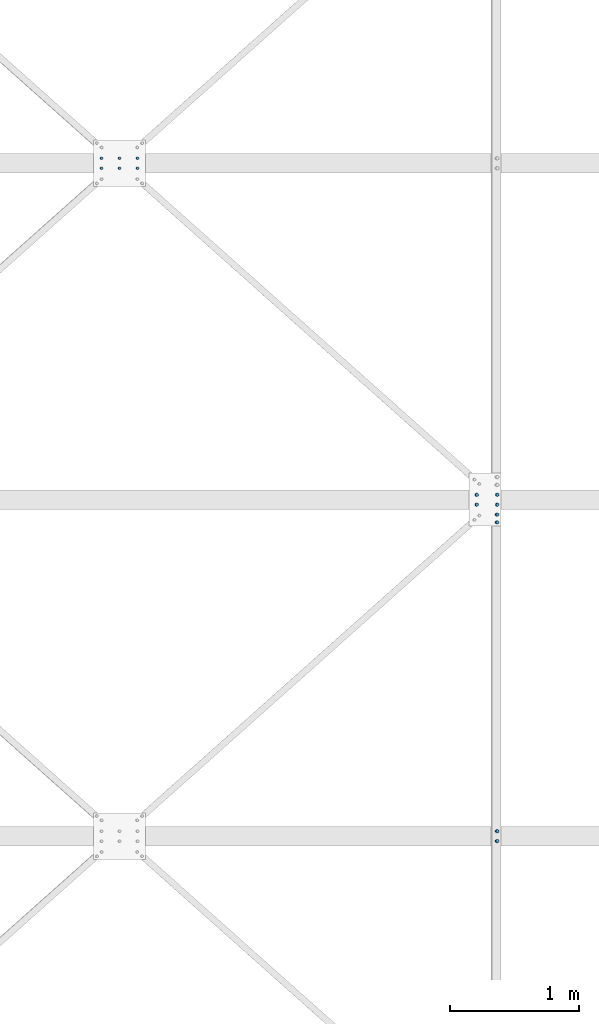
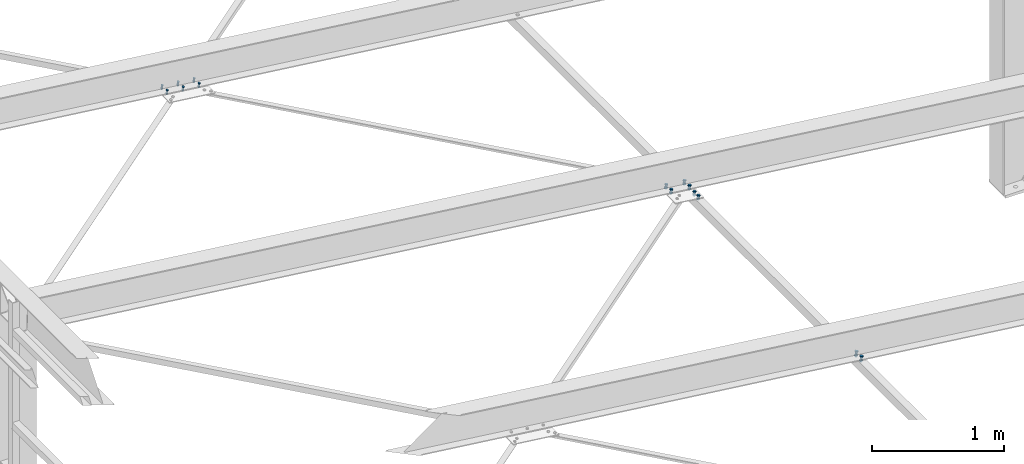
# One storey, part 200 of 3134: 4 mechanical fasteners, 4 elements without a shape of their own.
"""IFC2X3 building model written with IfcOpenShell, lengths in millimetres."""

from ifc_helpers import new_model, si_unit, frame, origin_with_axes, place, context, subcontext, project, spatial, faceted_brep, source, transform, mapped, material, type_object, element, aggregate, save


model = new_model("IFC2X3")

# Units and contexts
model_context = context("Model", 3, precision=1e-05, world=origin_with_axes())
body_context = subcontext(model_context, "Body", "Model", "MODEL_VIEW")
ifc_project = project(units=[si_unit("LENGTHUNIT", "METRE", prefix="MILLI"), si_unit("AREAUNIT", "SQUARE_METRE"), si_unit("VOLUMEUNIT", "CUBIC_METRE"), si_unit("MASSUNIT", "GRAM", prefix="KILO"), si_unit("TIMEUNIT", "SECOND"), si_unit("PLANEANGLEUNIT", "RADIAN"), si_unit("SOLIDANGLEUNIT", "STERADIAN"), si_unit("THERMODYNAMICTEMPERATUREUNIT", "DEGREE_CELSIUS"), si_unit("LUMINOUSINTENSITYUNIT", "LUMEN")], contexts=[model_context])

# Site, building, storey
site_placement = place(None, origin_with_axes())
site = spatial("IfcSite", under=ifc_project, at=site_placement, CompositionType="ELEMENT")
building_placement = place(site_placement, origin_with_axes())
building = spatial("IfcBuilding", under=site, at=building_placement, Name="Undefined", CompositionType="ELEMENT")
storey_placement = place(building_placement, origin_with_axes())
storey = spatial("IfcBuildingStorey", under=building, at=storey_placement, Name="Undefined", CompositionType="ELEMENT", Elevation=0.0)

# Assembly, mechanical fastener
assembly_1_placement = place(storey_placement, origin_with_axes())
assembly_1 = element("IfcElementAssembly", 1, at=assembly_1_placement, inside=storey, Name="300", AssemblyPlace="NOTDEFINED", PredefinedType="RIGID_FRAME")
ifc_material = material(Name="8.8")
mechanical_fastener_type = type_object("IfcMechanicalFastenerType", Name="Bolt assembly")
shared_shape_1 = source(origin_with_axes(), body_context, "Body", "Brep", [
    faceted_brep([(13.856406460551, -19.199990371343, 0.0), (6.92820323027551, -19.199990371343, 12.0), (-6.92820323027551, -19.199990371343, 12.0), (-13.856406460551, -19.199990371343, 1.69692038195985e-15), (-6.92820323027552, -19.199990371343, -12.0), (6.9282032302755, -19.199990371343, -12.0), (6.9282032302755, -9.19999037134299, -12.0), (-6.92820323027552, -9.19999037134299, -12.0), (-13.856406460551, -9.19999037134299, 1.69692038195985e-15), (-6.92820323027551, -9.19999037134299, 12.0), (6.92820323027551, -9.19999037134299, 12.0), (13.856406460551, -9.19999037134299, 0.0), (8.0, -9.19999037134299, 0.0), (6.92820323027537, -9.19999037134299, 4.00000000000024), (3.99999999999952, -9.19999037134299, 6.92820323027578), (-8.29068785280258e-13, -9.19999037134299, 8.0), (-4.00000000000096, -9.19999037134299, 6.92820323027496), (-6.9282032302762, -9.19999037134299, 3.99999999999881), (-8.0, -9.19999037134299, -1.65813757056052e-12), (-6.92820323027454, -9.19999037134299, -4.00000000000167), (-3.99999999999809, -9.19999037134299, -6.92820323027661), (2.47832457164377e-12, -9.19999037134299, -8.0), (4.00000000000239, -9.19999037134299, -6.92820323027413), (6.92820323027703, -9.19999037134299, -3.99999999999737), (6.92820323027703, 25.800009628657, -3.99999999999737), (4.00000000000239, 25.800009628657, -6.92820323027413), (2.47832457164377e-12, 25.800009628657, -8.0), (-3.99999999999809, 25.800009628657, -6.92820323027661), (-6.92820323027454, 25.800009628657, -4.00000000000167), (-8.0, 25.800009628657, -1.65813757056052e-12), (-6.9282032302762, 25.800009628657, 3.99999999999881), (-4.00000000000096, 25.800009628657, 6.92820323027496), (-8.29068785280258e-13, 25.800009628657, 8.0), (3.99999999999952, 25.800009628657, 6.92820323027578), (6.92820323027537, 25.800009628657, 4.00000000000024), (8.0, 25.800009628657, 0.0), (13.856406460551, 8.00000637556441, 0.0), (6.92820323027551, 8.00000637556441, 12.0), (-6.92820323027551, 8.00000637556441, 12.0), (-13.856406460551, 8.00000637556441, 1.69692038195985e-15), (-6.92820323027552, 8.00000637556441, -12.0), (6.9282032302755, 8.00000637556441, -12.0), (6.9282032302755, 21.0000063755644, -12.0), (-6.92820323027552, 21.0000063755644, -12.0), (-13.856406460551, 21.0000063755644, 1.69692038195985e-15), (-6.92820323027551, 21.0000063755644, 12.0), (6.92820323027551, 21.0000063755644, 12.0), (13.856406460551, 21.0000063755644, 0.0)], [[[0, 1, 2, 3, 4, 5]], [[6, 7, 8, 9, 10, 11]], [[0, 11, 10, 1]], [[1, 10, 9, 2]], [[2, 9, 8, 3]], [[3, 8, 7, 4]], [[4, 7, 6, 5]], [[5, 6, 11, 0]], [[12, 13, 14, 15, 16, 17, 18, 19, 20, 21, 22, 23]], [[24, 25, 26, 27, 28, 29, 30, 31, 32, 33, 34, 35]], [[12, 35, 34, 13]], [[13, 34, 33, 14]], [[14, 33, 32, 15]], [[15, 32, 31, 16]], [[16, 31, 30, 17]], [[17, 30, 29, 18]], [[18, 29, 28, 19]], [[19, 28, 27, 20]], [[20, 27, 26, 21]], [[21, 26, 25, 22]], [[22, 25, 24, 23]], [[23, 24, 35, 12]], [[36, 37, 38, 39, 40, 41]], [[42, 43, 44, 45, 46, 47]], [[36, 47, 46, 37]], [[37, 46, 45, 38]], [[38, 45, 44, 39]], [[39, 44, 43, 40]], [[40, 43, 42, 41]], [[41, 42, 47, 36]]]),
    faceted_brep([(9.0, -0.1, 0.0), (7.79422863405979, -0.1, 4.50000000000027), (4.49999999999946, -0.1, 7.79422863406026), (-9.3270238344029e-13, -0.1, 9.0), (-4.50000000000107, -0.1, 7.79422863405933), (-7.79422863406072, -0.1, 4.49999999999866), (-9.0, -0.1, -1.86540476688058e-12), (-7.79422863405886, -0.1, -4.50000000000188), (-4.49999999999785, -0.1, -7.79422863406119), (2.78811514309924e-12, -0.1, -9.0), (4.50000000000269, -0.1, -7.7942286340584), (7.79422863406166, -0.1, -4.49999999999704), (7.79422863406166, 8.00000000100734, -4.49999999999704), (4.50000000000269, 8.00000000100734, -7.7942286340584), (2.78811514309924e-12, 8.00000000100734, -9.0), (-4.49999999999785, 8.00000000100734, -7.79422863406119), (-7.79422863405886, 8.00000000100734, -4.50000000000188), (-9.0, 8.00000000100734, -1.86540476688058e-12), (-7.79422863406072, 8.00000000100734, 4.49999999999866), (-4.50000000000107, 8.00000000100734, 7.79422863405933), (-9.3270238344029e-13, 8.00000000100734, 9.0), (4.49999999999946, 8.00000000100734, 7.79422863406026), (7.79422863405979, 8.00000000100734, 4.50000000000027), (9.0, 8.00000000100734, 0.0), (9.0, -9.09999037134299, 0.0), (7.79422863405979, -9.09999037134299, 4.50000000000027), (4.49999999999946, -9.09999037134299, 7.79422863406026), (-9.3270238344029e-13, -9.09999037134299, 9.0), (-4.50000000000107, -9.09999037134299, 7.79422863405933), (-7.79422863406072, -9.09999037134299, 4.49999999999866), (-9.0, -9.09999037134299, -1.86540476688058e-12), (-7.79422863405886, -9.09999037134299, -4.50000000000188), (-4.49999999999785, -9.09999037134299, -7.79422863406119), (2.78811514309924e-12, -9.09999037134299, -9.0), (4.50000000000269, -9.09999037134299, -7.7942286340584), (7.79422863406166, -9.09999037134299, -4.49999999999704), (7.79422863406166, 0.100000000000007, -4.49999999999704), (4.50000000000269, 0.100000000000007, -7.7942286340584), (2.78811514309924e-12, 0.100000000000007, -9.0), (-4.49999999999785, 0.100000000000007, -7.79422863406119), (-7.79422863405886, 0.100000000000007, -4.50000000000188), (-9.0, 0.100000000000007, -1.86540476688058e-12), (-7.79422863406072, 0.100000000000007, 4.49999999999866), (-4.50000000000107, 0.100000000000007, 7.79422863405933), (-9.3270238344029e-13, 0.100000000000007, 9.0), (4.49999999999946, 0.100000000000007, 7.79422863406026), (7.79422863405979, 0.100000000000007, 4.50000000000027), (9.0, 0.100000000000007, 0.0)], [[[0, 1, 2, 3, 4, 5, 6, 7, 8, 9, 10, 11]], [[12, 13, 14, 15, 16, 17, 18, 19, 20, 21, 22, 23]], [[0, 23, 22, 1]], [[1, 22, 21, 2]], [[2, 21, 20, 3]], [[3, 20, 19, 4]], [[4, 19, 18, 5]], [[5, 18, 17, 6]], [[6, 17, 16, 7]], [[7, 16, 15, 8]], [[8, 15, 14, 9]], [[9, 14, 13, 10]], [[10, 13, 12, 11]], [[11, 12, 23, 0]], [[24, 25, 26, 27, 28, 29, 30, 31, 32, 33, 34, 35]], [[36, 37, 38, 39, 40, 41, 42, 43, 44, 45, 46, 47]], [[24, 47, 46, 25]], [[25, 46, 45, 26]], [[26, 45, 44, 27]], [[27, 44, 43, 28]], [[28, 43, 42, 29]], [[29, 42, 41, 30]], [[30, 41, 40, 31]], [[31, 40, 39, 32]], [[32, 39, 38, 33]], [[33, 38, 37, 34]], [[34, 37, 36, 35]], [[35, 36, 47, 24]]]),
])
mechanical_fastener_1_placement = place(assembly_1_placement, frame((26608.5751064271, 35012.0, 4816.43281405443), z_axis=(-0.992623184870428, 0.0, 0.121240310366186), x_axis=(0.0, 1.0, 0.0)))
mechanical_fastener_1 = element("IfcMechanicalFastener", 2, at=mechanical_fastener_1_placement, type_object=mechanical_fastener_type, material=ifc_material, Name="Bolt assembly", NominalDiameter=16.0, NominalLength=35.0, context=body_context, shape_type="MappedRepresentation", body=[
    mapped(shared_shape_1, transform((0.0, -5.32963895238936e-10, -79.9999999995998))),
    mapped(shared_shape_1, transform((76.0, -5.32963895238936e-10, -79.9999999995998))),
    mapped(shared_shape_1, transform((0.0, 5.3114490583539e-10, 79.9999999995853))),
    mapped(shared_shape_1, transform((76.0, 5.3114490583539e-10, 79.9999999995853))),
])
aggregate(assembly_1, [mechanical_fastener_1])

assembly_2_placement = place(storey_placement, origin_with_axes())
assembly_2 = element("IfcElementAssembly", 3, at=assembly_2_placement, inside=storey, AssemblyPlace="NOTDEFINED", PredefinedType="RIGID_FRAME")
shared_shape_2 = source(origin_with_axes(), body_context, "Body", "Brep", [
    faceted_brep([(13.856406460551, -19.199990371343, 0.0), (6.92820323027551, -19.199990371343, 12.0), (-6.92820323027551, -19.199990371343, 12.0), (-13.856406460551, -19.199990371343, 1.69692038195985e-15), (-6.92820323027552, -19.199990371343, -12.0), (6.9282032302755, -19.199990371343, -12.0), (6.9282032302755, -9.19999037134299, -12.0), (-6.92820323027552, -9.19999037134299, -12.0), (-13.856406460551, -9.19999037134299, 1.69692038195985e-15), (-6.92820323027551, -9.19999037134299, 12.0), (6.92820323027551, -9.19999037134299, 12.0), (13.856406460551, -9.19999037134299, 0.0), (8.0, -9.19999037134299, 0.0), (6.92820323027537, -9.19999037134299, 4.00000000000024), (3.99999999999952, -9.19999037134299, 6.92820323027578), (-8.29068785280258e-13, -9.19999037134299, 8.0), (-4.00000000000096, -9.19999037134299, 6.92820323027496), (-6.9282032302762, -9.19999037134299, 3.99999999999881), (-8.0, -9.19999037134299, -1.65813757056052e-12), (-6.92820323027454, -9.19999037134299, -4.00000000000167), (-3.99999999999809, -9.19999037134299, -6.92820323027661), (2.47832457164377e-12, -9.19999037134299, -8.0), (4.00000000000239, -9.19999037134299, -6.92820323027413), (6.92820323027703, -9.19999037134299, -3.99999999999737), (6.92820323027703, 35.8000002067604, -3.99999999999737), (4.00000000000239, 35.8000002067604, -6.92820323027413), (2.47832457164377e-12, 35.8000002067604, -8.0), (-3.99999999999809, 35.8000002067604, -6.92820323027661), (-6.92820323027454, 35.8000002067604, -4.00000000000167), (-8.0, 35.8000002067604, -1.65813757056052e-12), (-6.9282032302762, 35.8000002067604, 3.99999999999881), (-4.00000000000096, 35.8000002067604, 6.92820323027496), (-8.29068785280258e-13, 35.8000002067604, 8.0), (3.99999999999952, 35.8000002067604, 6.92820323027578), (6.92820323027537, 35.8000002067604, 4.00000000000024), (8.0, 35.8000002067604, 0.0), (13.856406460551, 14.9999995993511, 0.0), (6.92820323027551, 14.9999995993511, 12.0), (-6.92820323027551, 14.9999995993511, 12.0), (-13.856406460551, 14.9999995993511, 1.69692038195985e-15), (-6.92820323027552, 14.9999995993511, -12.0), (6.9282032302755, 14.9999995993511, -12.0), (6.9282032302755, 27.9999995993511, -12.0), (-6.92820323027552, 27.9999995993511, -12.0), (-13.856406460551, 27.9999995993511, 1.69692038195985e-15), (-6.92820323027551, 27.9999995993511, 12.0), (6.92820323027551, 27.9999995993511, 12.0), (13.856406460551, 27.9999995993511, 0.0)], [[[0, 1, 2, 3, 4, 5]], [[6, 7, 8, 9, 10, 11]], [[0, 11, 10, 1]], [[1, 10, 9, 2]], [[2, 9, 8, 3]], [[3, 8, 7, 4]], [[4, 7, 6, 5]], [[5, 6, 11, 0]], [[12, 13, 14, 15, 16, 17, 18, 19, 20, 21, 22, 23]], [[24, 25, 26, 27, 28, 29, 30, 31, 32, 33, 34, 35]], [[12, 35, 34, 13]], [[13, 34, 33, 14]], [[14, 33, 32, 15]], [[15, 32, 31, 16]], [[16, 31, 30, 17]], [[17, 30, 29, 18]], [[18, 29, 28, 19]], [[19, 28, 27, 20]], [[20, 27, 26, 21]], [[21, 26, 25, 22]], [[22, 25, 24, 23]], [[23, 24, 35, 12]], [[36, 37, 38, 39, 40, 41]], [[42, 43, 44, 45, 46, 47]], [[36, 47, 46, 37]], [[37, 46, 45, 38]], [[38, 45, 44, 39]], [[39, 44, 43, 40]], [[40, 43, 42, 41]], [[41, 42, 47, 36]]]),
    faceted_brep([(9.0, -9.09999037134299, 0.0), (7.79422863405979, -9.09999037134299, 4.50000000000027), (4.49999999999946, -9.09999037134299, 7.79422863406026), (-9.3270238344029e-13, -9.09999037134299, 9.0), (-4.50000000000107, -9.09999037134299, 7.79422863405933), (-7.79422863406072, -9.09999037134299, 4.49999999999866), (-9.0, -9.09999037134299, -1.86540476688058e-12), (-7.79422863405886, -9.09999037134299, -4.50000000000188), (-4.49999999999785, -9.09999037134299, -7.79422863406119), (2.78811514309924e-12, -9.09999037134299, -9.0), (4.50000000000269, -9.09999037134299, -7.7942286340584), (7.79422863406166, -9.09999037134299, -4.49999999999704), (7.79422863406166, 0.100000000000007, -4.49999999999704), (4.50000000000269, 0.100000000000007, -7.7942286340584), (2.78811514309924e-12, 0.100000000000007, -9.0), (-4.49999999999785, 0.100000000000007, -7.79422863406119), (-7.79422863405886, 0.100000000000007, -4.50000000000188), (-9.0, 0.100000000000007, -1.86540476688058e-12), (-7.79422863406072, 0.100000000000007, 4.49999999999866), (-4.50000000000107, 0.100000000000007, 7.79422863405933), (-9.3270238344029e-13, 0.100000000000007, 9.0), (4.49999999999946, 0.100000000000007, 7.79422863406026), (7.79422863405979, 0.100000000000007, 4.50000000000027), (9.0, 0.100000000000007, 0.0), (9.0, 7.9, 0.0), (7.79422863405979, 7.9, 4.50000000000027), (4.49999999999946, 7.9, 7.79422863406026), (-9.3270238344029e-13, 7.9, 9.0), (-4.50000000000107, 7.9, 7.79422863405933), (-7.79422863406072, 7.9, 4.49999999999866), (-9.0, 7.9, -1.86540476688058e-12), (-7.79422863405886, 7.9, -4.50000000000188), (-4.49999999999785, 7.9, -7.79422863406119), (2.78811514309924e-12, 7.9, -9.0), (4.50000000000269, 7.9, -7.7942286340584), (7.79422863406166, 7.9, -4.49999999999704), (7.79422863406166, 14.9999995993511, -4.49999999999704), (4.50000000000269, 14.9999995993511, -7.7942286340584), (2.78811514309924e-12, 14.9999995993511, -9.0), (-4.49999999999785, 14.9999995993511, -7.79422863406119), (-7.79422863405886, 14.9999995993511, -4.50000000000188), (-9.0, 14.9999995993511, -1.86540476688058e-12), (-7.79422863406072, 14.9999995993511, 4.49999999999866), (-4.50000000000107, 14.9999995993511, 7.79422863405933), (-9.3270238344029e-13, 14.9999995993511, 9.0), (4.49999999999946, 14.9999995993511, 7.79422863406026), (7.79422863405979, 14.9999995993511, 4.50000000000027), (9.0, 14.9999995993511, 0.0)], [[[0, 1, 2, 3, 4, 5, 6, 7, 8, 9, 10, 11]], [[12, 13, 14, 15, 16, 17, 18, 19, 20, 21, 22, 23]], [[0, 23, 22, 1]], [[1, 22, 21, 2]], [[2, 21, 20, 3]], [[3, 20, 19, 4]], [[4, 19, 18, 5]], [[5, 18, 17, 6]], [[6, 17, 16, 7]], [[7, 16, 15, 8]], [[8, 15, 14, 9]], [[9, 14, 13, 10]], [[10, 13, 12, 11]], [[11, 12, 23, 0]], [[24, 25, 26, 27, 28, 29, 30, 31, 32, 33, 34, 35]], [[36, 37, 38, 39, 40, 41, 42, 43, 44, 45, 46, 47]], [[24, 47, 46, 25]], [[25, 46, 45, 26]], [[26, 45, 44, 27]], [[27, 44, 43, 28]], [[28, 43, 42, 29]], [[29, 42, 41, 30]], [[30, 41, 40, 31]], [[31, 40, 39, 32]], [[32, 39, 38, 33]], [[33, 38, 37, 34]], [[34, 37, 36, 35]], [[35, 36, 47, 24]]]),
])
mechanical_fastener_2_placement = place(assembly_2_placement, frame((26687.9849612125, 32412.0, 4806.73358922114), z_axis=(-0.992623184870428, 0.0, 0.121240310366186), x_axis=(0.0, 1.0, 0.0)))
mechanical_fastener_2 = element("IfcMechanicalFastener", 4, at=mechanical_fastener_2_placement, type_object=mechanical_fastener_type, material=ifc_material, Name="Bolt assembly", NominalDiameter=16.0, NominalLength=45.0, context=body_context, shape_type="MappedRepresentation", body=[
    mapped(shared_shape_2, transform((0.0, 0.0, 0.0))),
    mapped(shared_shape_2, transform((76.0, 0.0, 0.0))),
])
aggregate(assembly_2, [mechanical_fastener_2])

assembly_3_placement = place(storey_placement, origin_with_axes())
assembly_3 = element("IfcElementAssembly", 5, at=assembly_3_placement, inside=storey, Name="PL8", AssemblyPlace="NOTDEFINED", PredefinedType="RIGID_FRAME")
shared_shape_3 = source(origin_with_axes(), body_context, "Body", "Brep", [
    faceted_brep([(13.856406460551, -10.0, 0.0), (6.92820323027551, -10.0, 12.0), (-6.92820323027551, -10.0, 12.0), (-13.856406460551, -10.0, 1.69692038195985e-15), (-6.92820323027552, -10.0, -12.0), (6.9282032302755, -10.0, -12.0), (6.9282032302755, 0.0, -12.0), (-6.92820323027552, 0.0, -12.0), (-13.856406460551, 0.0, 1.69692038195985e-15), (-6.92820323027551, 0.0, 12.0), (6.92820323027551, 0.0, 12.0), (13.856406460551, 0.0, 0.0), (8.0, 0.0, 0.0), (6.92820323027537, 0.0, 4.00000000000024), (3.99999999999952, 0.0, 6.92820323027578), (-8.29068785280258e-13, 0.0, 8.0), (-4.00000000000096, 0.0, 6.92820323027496), (-6.9282032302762, 0.0, 3.99999999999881), (-8.0, 0.0, -1.65813757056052e-12), (-6.92820323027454, 0.0, -4.00000000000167), (-3.99999999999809, 0.0, -6.92820323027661), (2.47832457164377e-12, 0.0, -8.0), (4.00000000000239, 0.0, -6.92820323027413), (6.92820323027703, 0.0, -3.99999999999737), (6.92820323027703, 35.0000000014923, -3.99999999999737), (4.00000000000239, 35.0000000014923, -6.92820323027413), (2.47832457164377e-12, 35.0000000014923, -8.0), (-3.99999999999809, 35.0000000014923, -6.92820323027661), (-6.92820323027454, 35.0000000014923, -4.00000000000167), (-8.0, 35.0000000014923, -1.65813757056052e-12), (-6.9282032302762, 35.0000000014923, 3.99999999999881), (-4.00000000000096, 35.0000000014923, 6.92820323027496), (-8.29068785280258e-13, 35.0000000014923, 8.0), (3.99999999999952, 35.0000000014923, 6.92820323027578), (6.92820323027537, 35.0000000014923, 4.00000000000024), (8.0, 35.0000000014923, 0.0), (13.856406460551, 14.9999995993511, 0.0), (6.92820323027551, 14.9999995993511, 12.0), (-6.92820323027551, 14.9999995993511, 12.0), (-13.856406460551, 14.9999995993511, 1.69692038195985e-15), (-6.92820323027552, 14.9999995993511, -12.0), (6.9282032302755, 14.9999995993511, -12.0), (6.9282032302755, 27.9999995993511, -12.0), (-6.92820323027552, 27.9999995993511, -12.0), (-13.856406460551, 27.9999995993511, 1.69692038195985e-15), (-6.92820323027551, 27.9999995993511, 12.0), (6.92820323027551, 27.9999995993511, 12.0), (13.856406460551, 27.9999995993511, 0.0)], [[[0, 1, 2, 3, 4, 5]], [[6, 7, 8, 9, 10, 11]], [[0, 11, 10, 1]], [[1, 10, 9, 2]], [[2, 9, 8, 3]], [[3, 8, 7, 4]], [[4, 7, 6, 5]], [[5, 6, 11, 0]], [[12, 13, 14, 15, 16, 17, 18, 19, 20, 21, 22, 23]], [[24, 25, 26, 27, 28, 29, 30, 31, 32, 33, 34, 35]], [[12, 35, 34, 13]], [[13, 34, 33, 14]], [[14, 33, 32, 15]], [[15, 32, 31, 16]], [[16, 31, 30, 17]], [[17, 30, 29, 18]], [[18, 29, 28, 19]], [[19, 28, 27, 20]], [[20, 27, 26, 21]], [[21, 26, 25, 22]], [[22, 25, 24, 23]], [[23, 24, 35, 12]], [[36, 37, 38, 39, 40, 41]], [[42, 43, 44, 45, 46, 47]], [[36, 47, 46, 37]], [[37, 46, 45, 38]], [[38, 45, 44, 39]], [[39, 44, 43, 40]], [[40, 43, 42, 41]], [[41, 42, 47, 36]]]),
    faceted_brep([(9.0, 7.9, 0.0), (7.79422863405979, 7.9, 4.50000000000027), (4.49999999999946, 7.9, 7.79422863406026), (-9.3270238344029e-13, 7.9, 9.0), (-4.50000000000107, 7.9, 7.79422863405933), (-7.79422863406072, 7.9, 4.49999999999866), (-9.0, 7.9, -1.86540476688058e-12), (-7.79422863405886, 7.9, -4.50000000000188), (-4.49999999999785, 7.9, -7.79422863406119), (2.78811514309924e-12, 7.9, -9.0), (4.50000000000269, 7.9, -7.7942286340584), (7.79422863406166, 7.9, -4.49999999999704), (7.79422863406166, 14.9999995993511, -4.49999999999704), (4.50000000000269, 14.9999995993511, -7.7942286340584), (2.78811514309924e-12, 14.9999995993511, -9.0), (-4.49999999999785, 14.9999995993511, -7.79422863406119), (-7.79422863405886, 14.9999995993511, -4.50000000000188), (-9.0, 14.9999995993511, -1.86540476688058e-12), (-7.79422863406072, 14.9999995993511, 4.49999999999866), (-4.50000000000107, 14.9999995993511, 7.79422863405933), (-9.3270238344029e-13, 14.9999995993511, 9.0), (4.49999999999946, 14.9999995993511, 7.79422863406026), (7.79422863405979, 14.9999995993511, 4.50000000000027), (9.0, 14.9999995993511, 0.0), (9.0, 0.100000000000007, 0.0), (7.79422863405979, 0.100000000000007, 4.50000000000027), (4.49999999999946, 0.100000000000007, 7.79422863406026), (-9.3270238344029e-13, 0.100000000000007, 9.0), (-4.50000000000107, 0.100000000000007, 7.79422863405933), (-7.79422863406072, 0.100000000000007, 4.49999999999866), (-9.0, 0.100000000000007, -1.86540476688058e-12), (-7.79422863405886, 0.100000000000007, -4.50000000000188), (-4.49999999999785, 0.100000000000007, -7.79422863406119), (2.78811514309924e-12, 0.100000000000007, -9.0), (4.50000000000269, 0.100000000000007, -7.7942286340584), (7.79422863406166, 0.100000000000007, -4.49999999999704), (7.79422863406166, 8.1, -4.49999999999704), (4.50000000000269, 8.1, -7.7942286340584), (2.78811514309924e-12, 8.1, -9.0), (-4.49999999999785, 8.1, -7.79422863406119), (-7.79422863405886, 8.1, -4.50000000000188), (-9.0, 8.1, -1.86540476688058e-12), (-7.79422863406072, 8.1, 4.49999999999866), (-4.50000000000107, 8.1, 7.79422863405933), (-9.3270238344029e-13, 8.1, 9.0), (4.49999999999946, 8.1, 7.79422863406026), (7.79422863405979, 8.1, 4.50000000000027), (9.0, 8.1, 0.0)], [[[0, 1, 2, 3, 4, 5, 6, 7, 8, 9, 10, 11]], [[12, 13, 14, 15, 16, 17, 18, 19, 20, 21, 22, 23]], [[0, 23, 22, 1]], [[1, 22, 21, 2]], [[2, 21, 20, 3]], [[3, 20, 19, 4]], [[4, 19, 18, 5]], [[5, 18, 17, 6]], [[6, 17, 16, 7]], [[7, 16, 15, 8]], [[8, 15, 14, 9]], [[9, 14, 13, 10]], [[10, 13, 12, 11]], [[11, 12, 23, 0]], [[24, 25, 26, 27, 28, 29, 30, 31, 32, 33, 34, 35]], [[36, 37, 38, 39, 40, 41, 42, 43, 44, 45, 46, 47]], [[24, 47, 46, 25]], [[25, 46, 45, 26]], [[26, 45, 44, 27]], [[27, 44, 43, 28]], [[28, 43, 42, 29]], [[29, 42, 41, 30]], [[30, 41, 40, 31]], [[31, 40, 39, 32]], [[32, 39, 38, 33]], [[33, 38, 37, 34]], [[34, 37, 36, 35]], [[35, 36, 47, 24]]]),
])
mechanical_fastener_3_placement = place(assembly_3_placement, frame((26687.9849612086, 34935.0, 4806.73358922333), z_axis=(0.992623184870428, 0.0, -0.121240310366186), x_axis=(0.0, -1.0, 0.0)))
mechanical_fastener_3 = element("IfcMechanicalFastener", 6, at=mechanical_fastener_3_placement, type_object=mechanical_fastener_type, material=ifc_material, Name="Bolt assembly", NominalDiameter=16.0, NominalLength=35.0, context=body_context, shape_type="MappedRepresentation", body=[
    mapped(shared_shape_3, transform((0.0, 0.0, 0.0))),
    mapped(shared_shape_3, transform((59.9999999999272, 0.0, 5.40239852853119e-10))),
])
aggregate(assembly_3, [mechanical_fastener_3])

assembly_4_placement = place(storey_placement, origin_with_axes())
assembly_4 = element("IfcElementAssembly", 7, at=assembly_4_placement, inside=storey, Name="300", AssemblyPlace="NOTDEFINED", PredefinedType="RIGID_FRAME")
shared_shape_4 = source(origin_with_axes(), body_context, "Body", "Brep", [
    faceted_brep([(10.9696551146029, -17.1999998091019, 0.0), (5.48482755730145, -17.1999998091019, 9.5), (-5.48482755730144, -17.1999998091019, 9.5), (-10.9696551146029, -17.1999998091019, 1.34339530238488e-15), (-5.48482755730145, -17.1999998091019, -9.5), (5.48482755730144, -17.1999998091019, -9.50000000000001), (5.48482755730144, -9.19999978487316, -9.50000000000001), (-5.48482755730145, -9.19999978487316, -9.5), (-10.9696551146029, -9.19999978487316, 1.34339530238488e-15), (-5.48482755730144, -9.19999978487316, 9.5), (5.48482755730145, -9.19999978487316, 9.5), (10.9696551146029, -9.19999978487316, 0.0), (6.0, -9.19999978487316, 0.0), (5.19615242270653, -9.19999978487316, 3.00000000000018), (2.99999999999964, -9.19999978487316, 5.19615242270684), (-6.21801588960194e-13, -9.19999978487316, 6.0), (-3.00000000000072, -9.19999978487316, 5.19615242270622), (-5.19615242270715, -9.19999978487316, 2.9999999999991), (-6.0, -9.19999978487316, -1.24360317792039e-12), (-5.19615242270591, -9.19999978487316, -3.00000000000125), (-2.99999999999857, -9.19999978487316, -5.19615242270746), (1.85874342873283e-12, -9.19999978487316, -6.0), (3.00000000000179, -9.19999978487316, -5.1961524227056), (5.19615242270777, -9.19999978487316, -2.99999999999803), (5.19615242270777, 25.8000002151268, -2.99999999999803), (3.00000000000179, 25.8000002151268, -5.1961524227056), (1.85874342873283e-12, 25.8000002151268, -6.0), (-2.99999999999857, 25.8000002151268, -5.19615242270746), (-5.19615242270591, 25.8000002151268, -3.00000000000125), (-6.0, 25.8000002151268, -1.24360317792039e-12), (-5.19615242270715, 25.8000002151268, 2.9999999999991), (-3.00000000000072, 25.8000002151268, 5.19615242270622), (-6.21801588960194e-13, 25.8000002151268, 6.0), (2.99999999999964, 25.8000002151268, 5.19615242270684), (5.19615242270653, 25.8000002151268, 3.00000000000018), (6.0, 25.8000002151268, 0.0), (10.9696551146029, 8.0, 0.0), (5.48482755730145, 8.0, 9.5), (-5.48482755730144, 8.0, 9.5), (-10.9696551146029, 8.0, 1.34339530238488e-15), (-5.48482755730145, 8.0, -9.5), (5.48482755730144, 8.0, -9.50000000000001), (5.48482755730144, 18.0, -9.50000000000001), (-5.48482755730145, 18.0, -9.5), (-10.9696551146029, 18.0, 1.34339530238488e-15), (-5.48482755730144, 18.0, 9.5), (5.48482755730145, 18.0, 9.5), (10.9696551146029, 18.0, 0.0)], [[[0, 1, 2, 3, 4, 5]], [[6, 7, 8, 9, 10, 11]], [[0, 11, 10, 1]], [[1, 10, 9, 2]], [[2, 9, 8, 3]], [[3, 8, 7, 4]], [[4, 7, 6, 5]], [[5, 6, 11, 0]], [[12, 13, 14, 15, 16, 17, 18, 19, 20, 21, 22, 23]], [[24, 25, 26, 27, 28, 29, 30, 31, 32, 33, 34, 35]], [[12, 35, 34, 13]], [[13, 34, 33, 14]], [[14, 33, 32, 15]], [[15, 32, 31, 16]], [[16, 31, 30, 17]], [[17, 30, 29, 18]], [[18, 29, 28, 19]], [[19, 28, 27, 20]], [[20, 27, 26, 21]], [[21, 26, 25, 22]], [[22, 25, 24, 23]], [[23, 24, 35, 12]], [[36, 37, 38, 39, 40, 41]], [[42, 43, 44, 45, 46, 47]], [[36, 47, 46, 37]], [[37, 46, 45, 38]], [[38, 45, 44, 39]], [[39, 44, 43, 40]], [[40, 43, 42, 41]], [[41, 42, 47, 36]]]),
    faceted_brep([(7.0, -0.1, 0.0), (6.06217782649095, -0.1, 3.50000000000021), (3.49999999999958, -0.1, 6.06217782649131), (-7.25435187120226e-13, -0.1, 7.0), (-3.50000000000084, -0.1, 6.06217782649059), (-6.06217782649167, -0.1, 3.49999999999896), (-7.0, -0.1, -1.45087037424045e-12), (-6.06217782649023, -0.1, -3.50000000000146), (-3.49999999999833, -0.1, -6.06217782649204), (2.1685340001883e-12, -0.1, -7.0), (3.50000000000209, -0.1, -6.06217782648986), (6.0621778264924, -0.1, -3.4999999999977), (6.0621778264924, 8.0000000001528, -3.4999999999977), (3.50000000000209, 8.0000000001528, -6.06217782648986), (2.1685340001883e-12, 8.0000000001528, -7.0), (-3.49999999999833, 8.0000000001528, -6.06217782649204), (-6.06217782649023, 8.0000000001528, -3.50000000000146), (-7.0, 8.0000000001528, -1.45087037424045e-12), (-6.06217782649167, 8.0000000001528, 3.49999999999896), (-3.50000000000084, 8.0000000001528, 6.06217782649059), (-7.25435187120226e-13, 8.0000000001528, 7.0), (3.49999999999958, 8.0000000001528, 6.06217782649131), (6.06217782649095, 8.0000000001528, 3.50000000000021), (7.0, 8.0000000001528, 0.0), (7.0, -9.09999980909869, 0.0), (6.06217782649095, -9.09999980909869, 3.50000000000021), (3.49999999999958, -9.09999980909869, 6.06217782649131), (-7.25435187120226e-13, -9.09999980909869, 7.0), (-3.50000000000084, -9.09999980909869, 6.06217782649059), (-6.06217782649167, -9.09999980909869, 3.49999999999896), (-7.0, -9.09999980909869, -1.45087037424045e-12), (-6.06217782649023, -9.09999980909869, -3.50000000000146), (-3.49999999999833, -9.09999980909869, -6.06217782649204), (2.1685340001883e-12, -9.09999980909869, -7.0), (3.50000000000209, -9.09999980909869, -6.06217782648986), (6.0621778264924, -9.09999980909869, -3.4999999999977), (6.0621778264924, 0.0999999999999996, -3.4999999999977), (3.50000000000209, 0.0999999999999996, -6.06217782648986), (2.1685340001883e-12, 0.0999999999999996, -7.0), (-3.49999999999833, 0.0999999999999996, -6.06217782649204), (-6.06217782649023, 0.0999999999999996, -3.50000000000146), (-7.0, 0.0999999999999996, -1.45087037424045e-12), (-6.06217782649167, 0.0999999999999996, 3.49999999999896), (-3.50000000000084, 0.0999999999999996, 6.06217782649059), (-7.25435187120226e-13, 0.0999999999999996, 7.0), (3.49999999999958, 0.0999999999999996, 6.06217782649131), (6.06217782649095, 0.0999999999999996, 3.50000000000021), (7.0, 0.0999999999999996, 0.0)], [[[0, 1, 2, 3, 4, 5, 6, 7, 8, 9, 10, 11]], [[12, 13, 14, 15, 16, 17, 18, 19, 20, 21, 22, 23]], [[0, 23, 22, 1]], [[1, 22, 21, 2]], [[2, 21, 20, 3]], [[3, 20, 19, 4]], [[4, 19, 18, 5]], [[5, 18, 17, 6]], [[6, 17, 16, 7]], [[7, 16, 15, 8]], [[8, 15, 14, 9]], [[9, 14, 13, 10]], [[10, 13, 12, 11]], [[11, 12, 23, 0]], [[24, 25, 26, 27, 28, 29, 30, 31, 32, 33, 34, 35]], [[36, 37, 38, 39, 40, 41, 42, 43, 44, 45, 46, 47]], [[24, 47, 46, 25]], [[25, 46, 45, 26]], [[26, 45, 44, 27]], [[27, 44, 43, 28]], [[28, 43, 42, 29]], [[29, 42, 41, 30]], [[30, 41, 40, 31]], [[31, 40, 39, 32]], [[32, 39, 38, 33]], [[33, 38, 37, 34]], [[34, 37, 36, 35]], [[35, 36, 47, 24]]]),
])
mechanical_fastener_4_placement = place(assembly_4_placement, frame((23908.2022067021, 37650.0, 5146.25993625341), z_axis=(0.0, -1.0, 0.0), x_axis=(-0.992623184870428, 0.0, 0.121240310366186)))
mechanical_fastener_4 = element("IfcMechanicalFastener", 8, at=mechanical_fastener_4_placement, type_object=mechanical_fastener_type, material=ifc_material, Name="Bolt assembly", NominalDiameter=12.0, NominalLength=35.0, context=body_context, shape_type="MappedRepresentation", body=[
    mapped(shared_shape_4, transform((0.0, 0.0, -38.0))),
    mapped(shared_shape_4, transform((140.000000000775, 5.85714587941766e-10, -38.0))),
    mapped(shared_shape_4, transform((279.999999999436, -4.74756234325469e-10, -38.0))),
    mapped(shared_shape_4, transform((0.0, 0.0, 38.0))),
    mapped(shared_shape_4, transform((140.000000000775, 5.85714587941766e-10, 38.0))),
    mapped(shared_shape_4, transform((279.999999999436, -4.74756234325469e-10, 38.0))),
])
aggregate(assembly_4, [mechanical_fastener_4])

save(model, "model.ifc")
